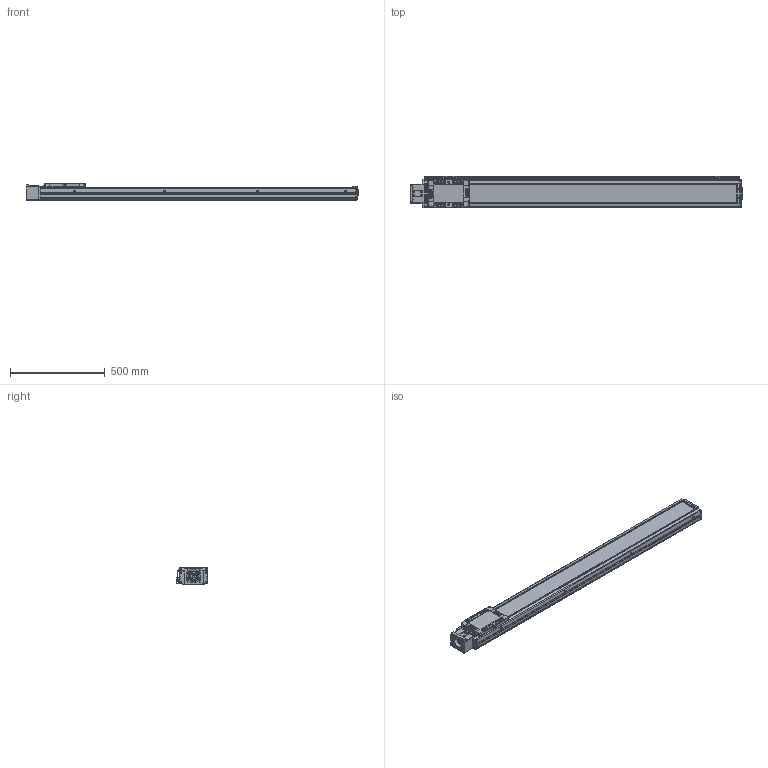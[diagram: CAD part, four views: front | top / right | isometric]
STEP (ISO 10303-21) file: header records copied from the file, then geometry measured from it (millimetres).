
FILE_DESCRIPTION(('STEP AP214'),'1');
FILE_NAME('Z:/Web/3D/SAN150/2013.04 (STP.)/SAN150ㅁㅁ-1400S+3SL.stp','2013-05-07T08:33:28',(' '),(' '),'Spatial InterOp 3D',' ',' ');
FILE_SCHEMA(('automotive_design'));
Length unit declared in the file: millimetre
Products named in the file (97): M3.0 x 6.0; SRL-16x17-360L; SGD-SAN150; EE-SX674; SBK-SX674-352; 스크루 : Round - M3.0 x 6.0; BHCS M4.0 x 10.0; SLBL-SAN150; SLCV-SAN150; FHCS M4.0 x 8.0; SFX-SAN150; RRCV-SAN150; FRBL-SAN150; Spacer; RN15; FRCV-SAN150; Screw 20; BASE-SAN150-000L ; SUS COVER; 스크루 : Round - M5.0 x 6.0; BHCS M3.0 x 6.0; SSFX-SAN65; CPLCV-SAN65; SDWA47C(2); SDWA47C(3-1); SDWA47C(3); SDWA47C(1); SDWA47C(4); SDWA47C(5); MTHZ-SAN150-80
Bounding box: 1749 x 166 x 90 mm (x, y, z)
Volume: 9203787.4 mm3; surface area: 1877935.6 mm2
Topology: 97 solids, 97 shells, 3622 faces, 9404 edges, 6066 vertices
Faces by surface type: plane 1627, cylinder 1389, cone 477, sphere 84, bspline 29, torus 16
Entity records: 146196 total; most frequent: CARTESIAN_POINT 23947, DIRECTION 20347, ORIENTED_EDGE 18512, EDGE_CURVE 9256, AXIS2_PLACEMENT_3D 7597, VERTEX_POINT 6066, LINE 5153, VECTOR 5153
